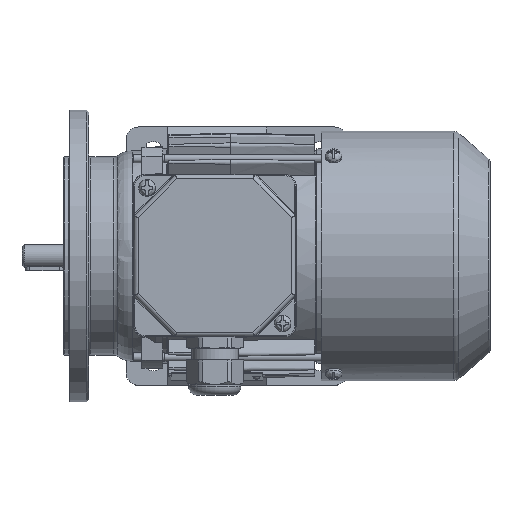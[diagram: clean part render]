
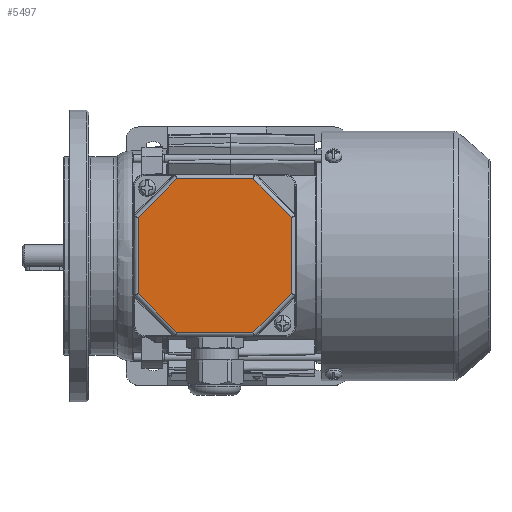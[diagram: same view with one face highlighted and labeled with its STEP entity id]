
A CAD part, top view. The second image highlights one B-rep face of the part: STEP entity #5497.
In plain terms, the highlighted planar face has unit normal (0, 0, 1).
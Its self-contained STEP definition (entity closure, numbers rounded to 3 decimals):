
#5497 = ADVANCED_FACE( '', ( #10867 ), #10868, .T. );
#10867 = FACE_OUTER_BOUND( '', #24714, .T. );
#10868 = PLANE( '', #24715 );
#24714 = EDGE_LOOP( '', ( #39584, #39585, #39586, #39587, #39588, #39589, #39590, #39591 ) );
#24715 = AXIS2_PLACEMENT_3D( '', #39592, #39593, #39594 );
#39584 = ORIENTED_EDGE( '', *, *, #43926, .T. );
#39585 = ORIENTED_EDGE( '', *, *, #46124, .T. );
#39586 = ORIENTED_EDGE( '', *, *, #41761, .T. );
#39587 = ORIENTED_EDGE( '', *, *, #42997, .T. );
#39588 = ORIENTED_EDGE( '', *, *, #42563, .T. );
#39589 = ORIENTED_EDGE( '', *, *, #45948, .T. );
#39590 = ORIENTED_EDGE( '', *, *, #45819, .T. );
#39591 = ORIENTED_EDGE( '', *, *, #45150, .T. );
#39592 = CARTESIAN_POINT( '', ( -39., 39., 12. ) );
#39593 = DIRECTION( '', ( 0., 0., 1. ) );
#39594 = DIRECTION( '', ( 1., 0., 0. ) );
#41761 = EDGE_CURVE( '', #49220, #49608, #49609, .F. );
#42563 = EDGE_CURVE( '', #50972, #50973, #50974, .F. );
#42997 = EDGE_CURVE( '', #49608, #50972, #51733, .T. );
#43926 = EDGE_CURVE( '', #53183, #49012, #53184, .F. );
#45150 = EDGE_CURVE( '', #54935, #53183, #54936, .T. );
#45819 = EDGE_CURVE( '', #53073, #54935, #55799, .F. );
#45948 = EDGE_CURVE( '', #50973, #53073, #55951, .T. );
#46124 = EDGE_CURVE( '', #49012, #49220, #56166, .T. );
#49012 = VERTEX_POINT( '', #58798 );
#49220 = VERTEX_POINT( '', #59216 );
#49608 = VERTEX_POINT( '', #59992 );
#49609 = LINE( '', #59993, #59994 );
#50972 = VERTEX_POINT( '', #62994 );
#50973 = VERTEX_POINT( '', #62995 );
#50974 = LINE( '', #62996, #62997 );
#51733 = LINE( '', #64056, #64057 );
#53073 = VERTEX_POINT( '', #66908 );
#53183 = VERTEX_POINT( '', #67401 );
#53184 = LINE( '', #67402, #67403 );
#54935 = VERTEX_POINT( '', #71209 );
#54936 = LINE( '', #71210, #71211 );
#55799 = LINE( '', #73024, #73025 );
#55951 = LINE( '', #73460, #73461 );
#56166 = LINE( '', #74169, #74170 );
#58798 = CARTESIAN_POINT( '', ( 36.825, 18.255, 12. ) );
#59216 = CARTESIAN_POINT( '', ( 18.255, 36.825, 12. ) );
#59992 = CARTESIAN_POINT( '', ( -18.255, 36.825, 12. ) );
#59993 = CARTESIAN_POINT( '', ( -19.069, 36.825, 12. ) );
#59994 = VECTOR( '', #77530, 1000. );
#62994 = CARTESIAN_POINT( '', ( -36.825, 18.255, 12. ) );
#62995 = CARTESIAN_POINT( '', ( -36.825, -18.255, 12. ) );
#62996 = CARTESIAN_POINT( '', ( -36.825, -19.069, 12. ) );
#62997 = VECTOR( '', #78445, 1000. );
#64056 = CARTESIAN_POINT( '', ( -37.401, 17.679, 12. ) );
#64057 = VECTOR( '', #79208, 1000. );
#66908 = CARTESIAN_POINT( '', ( -18.255, -36.825, 12. ) );
#67401 = CARTESIAN_POINT( '', ( 36.825, -18.255, 12. ) );
#67402 = CARTESIAN_POINT( '', ( 36.825, 19.069, 12. ) );
#67403 = VECTOR( '', #80292, 1000. );
#71209 = CARTESIAN_POINT( '', ( 18.255, -36.825, 12. ) );
#71210 = CARTESIAN_POINT( '', ( 37.401, -17.679, 12. ) );
#71211 = VECTOR( '', #81574, 1000. );
#73024 = CARTESIAN_POINT( '', ( 19.069, -36.825, 12. ) );
#73025 = VECTOR( '', #82232, 1000. );
#73460 = CARTESIAN_POINT( '', ( -17.679, -37.401, 12. ) );
#73461 = VECTOR( '', #82327, 1000. );
#74169 = CARTESIAN_POINT( '', ( 17.679, 37.401, 12. ) );
#74170 = VECTOR( '', #82500, 1000. );
#77530 = DIRECTION( '', ( 1., 0., 0. ) );
#78445 = DIRECTION( '', ( 0., 1., 0. ) );
#79208 = DIRECTION( '', ( -0.707, -0.707, 0. ) );
#80292 = DIRECTION( '', ( 0., -1., 0. ) );
#81574 = DIRECTION( '', ( 0.707, 0.707, 0. ) );
#82232 = DIRECTION( '', ( -1., 0., 0. ) );
#82327 = DIRECTION( '', ( 0.707, -0.707, 0. ) );
#82500 = DIRECTION( '', ( -0.707, 0.707, 0. ) );
